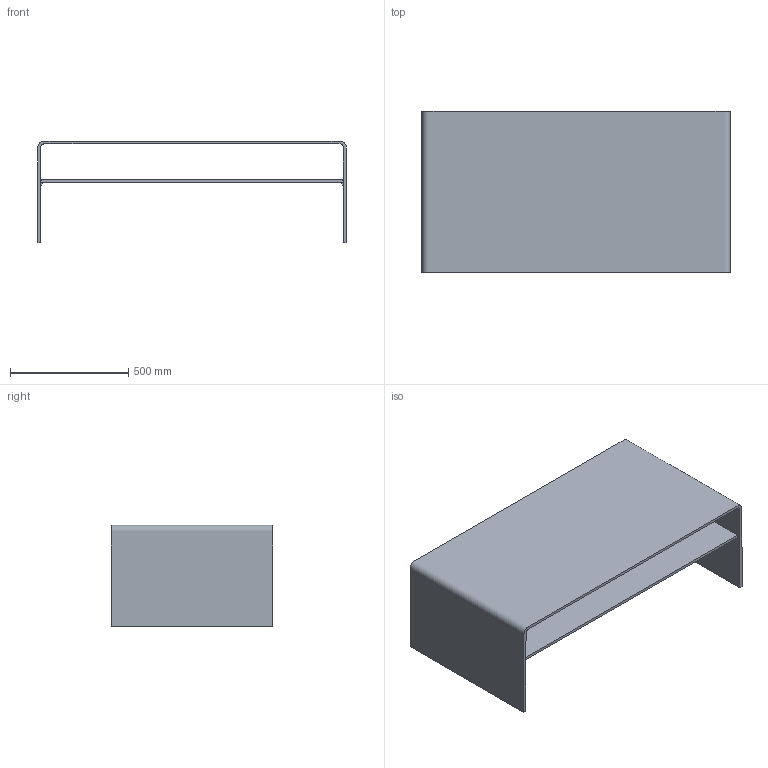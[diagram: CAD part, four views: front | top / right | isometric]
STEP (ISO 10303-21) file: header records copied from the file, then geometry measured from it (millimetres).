
FILE_DESCRIPTION(/* description */ (''),/* implementation_level */ '2;1');
FILE_NAME(/* name */ '0169 - Rialto Piano 130x68 H43',/* time_stamp */ '2010-11-04T09:25:03+01:00',/* author */ (''),/* organization */ (''),/* preprocessor_version */ 'ST-DEVELOPER v10',/* originating_system */ '',/* authorisation */ '');
FILE_SCHEMA (('CONFIG_CONTROL_DESIGN'));
Length unit declared in the file: centimetre
Products named in the file (1): 1
Bounding box: 1302 x 680 x 430 mm (x, y, z)
Volume: 20293901.2 mm3; surface area: 4649670.1 mm2
Topology: 6 solids, 6 shells, 40 faces, 84 edges, 56 vertices
Faces by surface type: plane 38, bspline 2
Entity records: 1100 total; most frequent: CARTESIAN_POINT 376, ORIENTED_EDGE 168, EDGE_CURVE 84, B_SPLINE_CURVE_WITH_KNOTS 80, VERTEX_POINT 56, DIRECTION 42, ADVANCED_FACE 40, FACE_OUTER_BOUND 40
